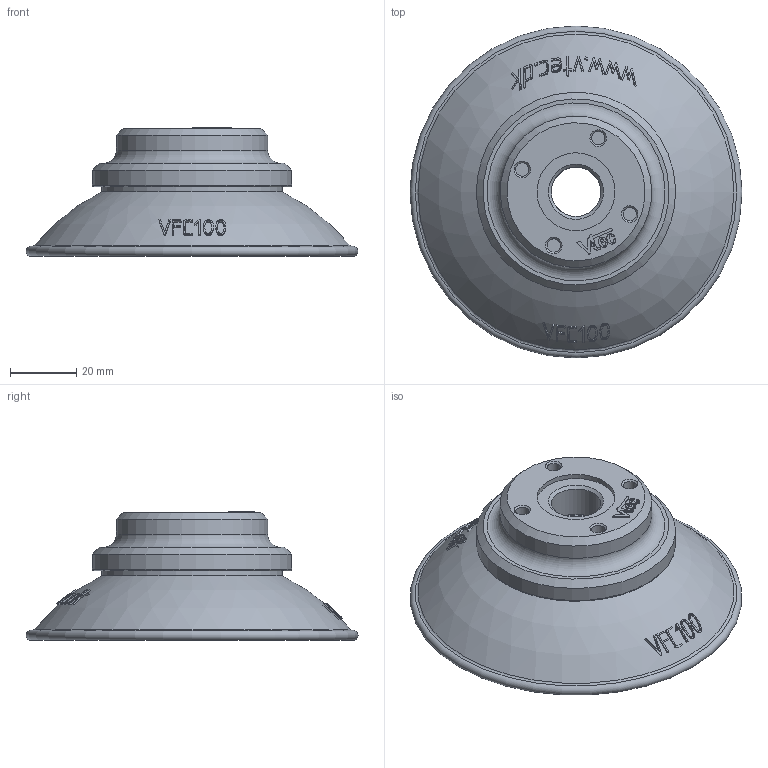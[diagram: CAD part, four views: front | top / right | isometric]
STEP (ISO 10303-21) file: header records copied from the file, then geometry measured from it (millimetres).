
FILE_DESCRIPTION( ( 'STEP AP203' ), '1' );
FILE_NAME( 'C:/Documents and Settings/Owner/官帕 拳搁/3D/Vacuum Pad/VFC series/VFC100-38F.stp', '2006-04-25T05:07:36', ( ' ' ), ( ' ' ), 'XStep 1.0', ' ', ' ' );
FILE_SCHEMA( ( 'CONFIG_CONTROL_DESIGN) ( )' ) );
Length unit declared in the file: metre
Products named in the file (3): Assem1; 1; 2
Bounding box: 100 x 100 x 38.8 mm (x, y, z)
Volume: 134452.5 mm3; surface area: 75565.4 mm2
Topology: 4 solids, 4 shells, 806 faces, 1956 edges, 1300 vertices
Faces by surface type: bspline 256, plane 218, cylinder 180, sphere 112, cone 22, torus 14, extrusion 4
Full cylindrical faces by diameter (mm): 0.791 x2, 4 x16, 6.7 x16, 14.9 x2, 15 x2, 20 x2, 23.5 x2, 45.6 x2, 50 x2, 54.5 x2, 55 x2, 60 x2
Entity records: 19363 total; most frequent: CARTESIAN_POINT 10761, ORIENTED_EDGE 1820, DIRECTION 1434, EDGE_CURVE 910, VERTEX_POINT 634, AXIS2_PLACEMENT_3D 578, EDGE_LOOP 546, FACE_OUTER_BOUND 443
